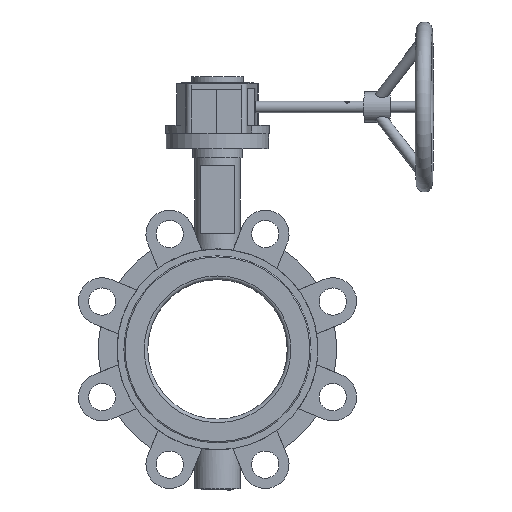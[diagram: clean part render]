
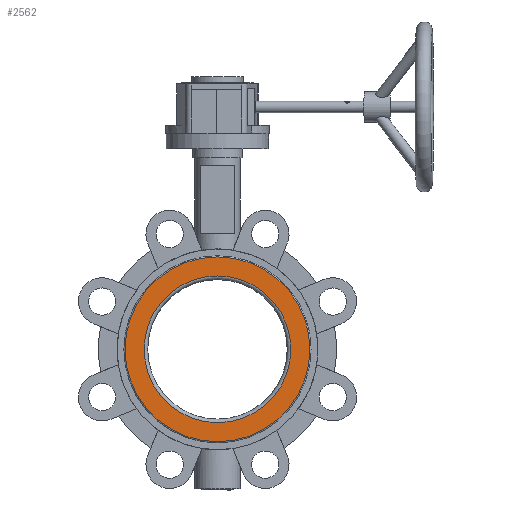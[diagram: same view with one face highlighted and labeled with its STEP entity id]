
A CAD part, front view. The second image highlights one B-rep face of the part: STEP entity #2562.
In plain terms, the highlighted planar face has unit normal (0, -1, 0) as drawn and (-1, 0, 0) by its records, which use the part's own axes.
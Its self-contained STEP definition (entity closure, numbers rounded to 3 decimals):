
#216 = AXIS2_PLACEMENT_3D ( 'NONE', #8578, #3756, #9390 ) ;
#963 = AXIS2_PLACEMENT_3D ( 'NONE', #9296, #2861, #5980 ) ;
#1303 = VERTEX_POINT ( 'NONE', #6711 ) ;
#1311 = CIRCLE ( 'NONE', #216, 64.69 ) ;
#2199 = EDGE_LOOP ( 'NONE', ( #6113 ) ) ;
#2241 = ORIENTED_EDGE ( 'NONE', *, *, #9443, .F. ) ;
#2418 = DIRECTION ( 'NONE',  ( 1., 0., 0. ) ) ;
#2562 = ADVANCED_FACE ( 'NONE', ( #5727, #3447 ), #7182, .F. ) ;
#2861 = DIRECTION ( 'NONE',  ( -1., 0., 0. ) ) ;
#3447 = FACE_OUTER_BOUND ( 'NONE', #2199, .T. ) ;
#3756 = DIRECTION ( 'NONE',  ( -1., 0., 0. ) ) ;
#4860 = CARTESIAN_POINT ( 'NONE',  ( -30., 0., 0. ) ) ;
#5727 = FACE_BOUND ( 'NONE', #7979, .T. ) ;
#5980 = DIRECTION ( 'NONE',  ( 0., 0., 1. ) ) ;
#6113 = ORIENTED_EDGE ( 'NONE', *, *, #9204, .T. ) ;
#6711 = CARTESIAN_POINT ( 'NONE',  ( -30., 0., 81.5 ) ) ;
#7182 = PLANE ( 'NONE',  #8279 ) ;
#7549 = CARTESIAN_POINT ( 'NONE',  ( -30., 0., 64.69 ) ) ;
#7979 = EDGE_LOOP ( 'NONE', ( #2241 ) ) ;
#8083 = DIRECTION ( 'NONE',  ( 0., 0., -1. ) ) ;
#8279 = AXIS2_PLACEMENT_3D ( 'NONE', #4860, #2418, #8083 ) ;
#8578 = CARTESIAN_POINT ( 'NONE',  ( -30., 0., 0. ) ) ;
#9204 = EDGE_CURVE ( 'NONE', #1303, #1303, #9784, .T. ) ;
#9296 = CARTESIAN_POINT ( 'NONE',  ( -30., 0., 0. ) ) ;
#9390 = DIRECTION ( 'NONE',  ( 0., 0., 1. ) ) ;
#9443 = EDGE_CURVE ( 'NONE', #9945, #9945, #1311, .T. ) ;
#9784 = CIRCLE ( 'NONE', #963, 81.5 ) ;
#9945 = VERTEX_POINT ( 'NONE', #7549 ) ;
